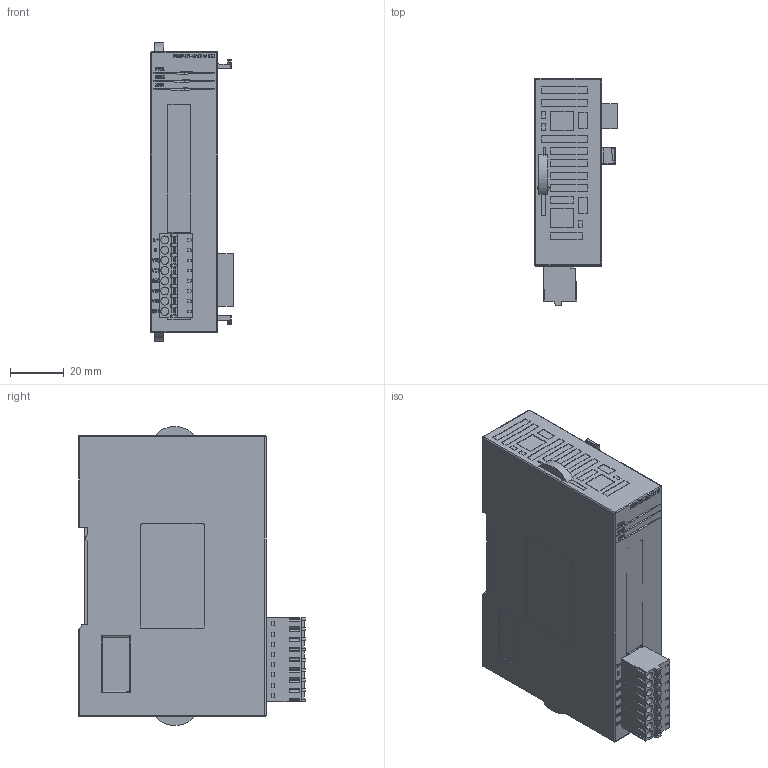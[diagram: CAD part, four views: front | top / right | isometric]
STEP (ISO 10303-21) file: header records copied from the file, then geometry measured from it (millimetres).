
FILE_DESCRIPTION(('STEP AP242'), '1');
FILE_NAME('PMP-01-4AD-V-ED', '', ('UNSPECIFIED'), ('UNSPECIFIED'), 'C3D Converter', 'C3D Toolkit', '');
FILE_SCHEMA(('AP242_MANAGED_MODEL_BASED_3D_ENGINEERING_MIM_LF { 1 0 10303 442 1 1 4 }'));
Length unit declared in the file: millimetre
Products named in the file (1): PMP-01-4AD-V-ED
Bounding box: 30.8 x 84.71 x 111.69 mm (x, y, z)
Surface area: 29150.7 mm2
Topology: 15 solids, 32 shells, 1292 faces, 3468 edges, 2314 vertices
Faces by surface type: plane 974, bspline 148, cylinder 86, extrusion 84
Full cylindrical faces by diameter (mm): 3 x8
Entity records: 70372 total; most frequent: CARTESIAN_POINT 28974, ORIENTED_EDGE 6814, DIRECTION 5210, EDGE_CURVE 3459, VECTOR 2662, LINE 2578, VERTEX_POINT 2314, EDGE_LOOP 1451
